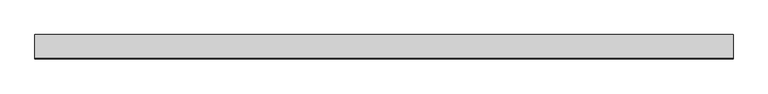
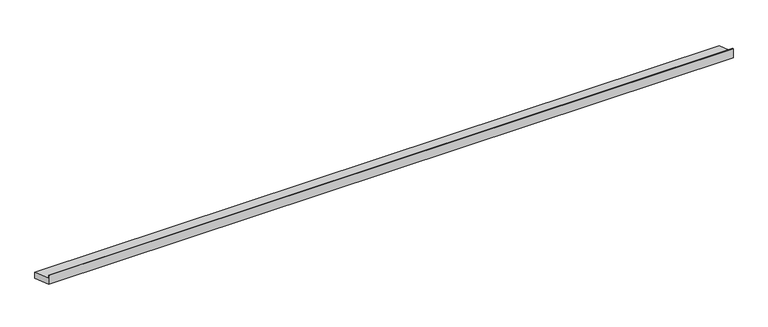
"""IFC4 building model written with IfcOpenShell, lengths in millimetres: proxy geometry, Roof_Vent-Metal_Era-Hi_Perf_Ridge_Vent_Sloped_Roof_Meets_High_Wall : Roof_Vent-Metal_Era-Hi_Perf_Ridge_Vent_Sloped_Roof_Meets_High_Wall."""

from ifc_helpers import new_model, si_unit, frame, origin, place, context, project, spatial, polyline, outline, extrude, source, transform, mapped, element, save


def specialty_equipment_c1aa3ee7(model_context):
    return source(origin(), model_context, "Body", "SweptSolid", [
        extrude(outline(polyline([(106.4729028, 44.5678631), (106.4729028, 17.7946829), (0.0, 53.2754326), (0.0, 95.3945779), (1.5875617, 95.3945779), (1.5875617, 79.5195779), (106.4729028, 44.5678631)])), frame((0.0, 0.0, 0.0), z_axis=(1.0, 0.0, 0.0), x_axis=(0.0, 1.0, 0.0)), (0.0, 0.0, 1.0), 3048.0),
    ])


if __name__ == "__main__":
    model = new_model("IFC4")
    model_context = context("Model", 3, world=origin())
    ifc_project = project(units=[si_unit("LENGTHUNIT", "METRE", prefix="MILLI")], contexts=[model_context])
    site = spatial("IfcSite", under=ifc_project)
    building = spatial("IfcBuilding", under=site)
    placement = place(None, origin())
    specialty_equipment_shape = specialty_equipment_c1aa3ee7(model_context)
    element("IfcBuildingElementProxy", 1, Name="Roof_Vent-Metal_Era-Hi_Perf_Ridge_Vent_Sloped_Roof_Meets_High_Wall : Roof_Vent-Metal_Era-Hi_Perf_Ridge_Vent_Sloped_Roof_Meets_High_Wall", ObjectType="Roof_Vent-Metal_Era-Hi_Perf_Ridge_Vent_Sloped_Roof_Meets_High_Wall : Roof_Vent-Metal_Era-Hi_Perf_Ridge_Vent_Sloped_Roof_Meets_High_Wall", at=placement, inside=building, context=model_context, shape_type="MappedRepresentation", body=[
        mapped(specialty_equipment_shape, transform((0.0, 0.0, 0.0), x_axis=(1.0, 0.0, 0.0), y_axis=(0.0, 1.0, 0.0), z_axis=(0.0, 0.0, 1.0))),
    ])
    save(model, "model.ifc")
